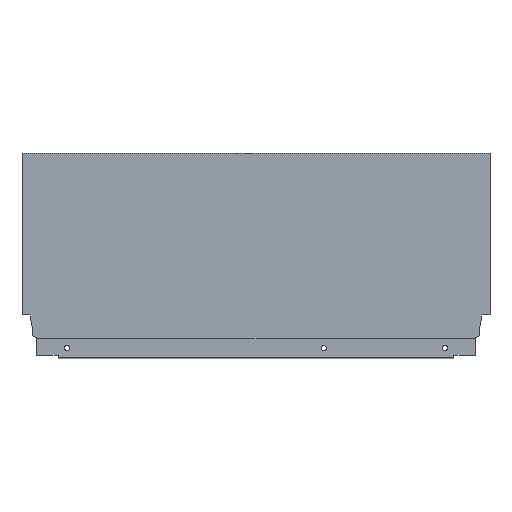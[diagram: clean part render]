
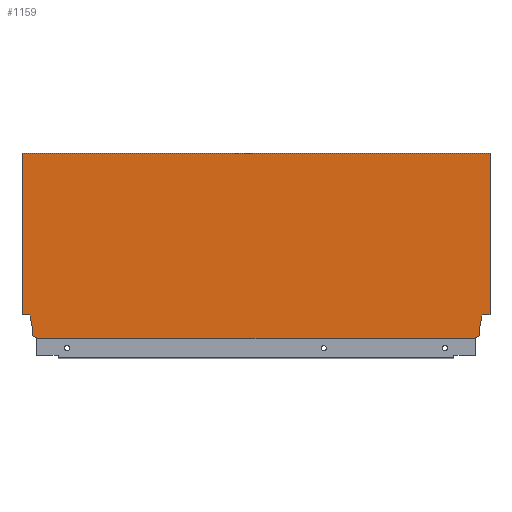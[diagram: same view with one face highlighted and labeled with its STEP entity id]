
A CAD part, top view. The second image highlights one B-rep face of the part: STEP entity #1159.
In plain terms, the highlighted planar face has unit normal (0, 0, 1).
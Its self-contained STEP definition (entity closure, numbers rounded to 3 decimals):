
#111 = EDGE_LOOP ( 'NONE', ( #619, #616, #615, #614, #613, #622, #621, #620, #474, #473, #505, #513, #501, #422 ) ) ;
#298 = VECTOR ( 'NONE', #1320, 1000. ) ;
#299 = LINE ( 'NONE', #1321, #298 ) ;
#300 = VECTOR ( 'NONE', #1323, 1000. ) ;
#302 = LINE ( 'NONE', #1348, #303 ) ;
#303 = VECTOR ( 'NONE', #1347, 1000. ) ;
#304 = LINE ( 'NONE', #1346, #305 ) ;
#305 = VECTOR ( 'NONE', #1345, 1000. ) ;
#306 = LINE ( 'NONE', #1343, #307 ) ;
#307 = VECTOR ( 'NONE', #1342, 1000. ) ;
#308 = LINE ( 'NONE', #1341, #322 ) ;
#312 = LINE ( 'NONE', #1324, #300 ) ;
#313 = VECTOR ( 'NONE', #1326, 1000. ) ;
#314 = LINE ( 'NONE', #1327, #313 ) ;
#315 = VECTOR ( 'NONE', #1328, 1000. ) ;
#316 = LINE ( 'NONE', #1329, #315 ) ;
#317 = VECTOR ( 'NONE', #1331, 1000. ) ;
#318 = LINE ( 'NONE', #1332, #317 ) ;
#320 = VECTOR ( 'NONE', #1334, 1000. ) ;
#321 = VECTOR ( 'NONE', #1336, 1000. ) ;
#322 = VECTOR ( 'NONE', #1340, 1000. ) ;
#323 = LINE ( 'NONE', #1337, #321 ) ;
#326 = VECTOR ( 'NONE', #1352, 1000. ) ;
#327 = LINE ( 'NONE', #1353, #326 ) ;
#328 = LINE ( 'NONE', #1312, #334 ) ;
#330 = VECTOR ( 'NONE', #1357, 1000. ) ;
#331 = LINE ( 'NONE', #1359, #330 ) ;
#334 = VECTOR ( 'NONE', #1311, 1000. ) ;
#336 = LINE ( 'NONE', #1356, #320 ) ;
#422 = ORIENTED_EDGE ( 'NONE', *, *, #706, .F. ) ;
#473 = ORIENTED_EDGE ( 'NONE', *, *, #712, .F. ) ;
#474 = ORIENTED_EDGE ( 'NONE', *, *, #713, .F. ) ;
#501 = ORIENTED_EDGE ( 'NONE', *, *, #711, .F. ) ;
#505 = ORIENTED_EDGE ( 'NONE', *, *, #710, .F. ) ;
#513 = ORIENTED_EDGE ( 'NONE', *, *, #708, .F. ) ;
#613 = ORIENTED_EDGE ( 'NONE', *, *, #716, .F. ) ;
#614 = ORIENTED_EDGE ( 'NONE', *, *, #717, .F. ) ;
#615 = ORIENTED_EDGE ( 'NONE', *, *, #718, .F. ) ;
#616 = ORIENTED_EDGE ( 'NONE', *, *, #719, .F. ) ;
#619 = ORIENTED_EDGE ( 'NONE', *, *, #714, .T. ) ;
#620 = ORIENTED_EDGE ( 'NONE', *, *, #715, .F. ) ;
#621 = ORIENTED_EDGE ( 'NONE', *, *, #720, .T. ) ;
#622 = ORIENTED_EDGE ( 'NONE', *, *, #723, .F. ) ;
#706 = EDGE_CURVE ( 'NONE', #1209, #1255, #331, .T. ) ;
#708 = EDGE_CURVE ( 'NONE', #1263, #1396, #327, .T. ) ;
#710 = EDGE_CURVE ( 'NONE', #1396, #1479, #302, .T. ) ;
#711 = EDGE_CURVE ( 'NONE', #1255, #1263, #304, .T. ) ;
#712 = EDGE_CURVE ( 'NONE', #1479, #1455, #306, .T. ) ;
#713 = EDGE_CURVE ( 'NONE', #1455, #1244, #308, .T. ) ;
#714 = EDGE_CURVE ( 'NONE', #1209, #1339, #323, .T. ) ;
#715 = EDGE_CURVE ( 'NONE', #1244, #1260, #336, .T. ) ;
#716 = EDGE_CURVE ( 'NONE', #1273, #1248, #318, .T. ) ;
#717 = EDGE_CURVE ( 'NONE', #1248, #1222, #316, .T. ) ;
#718 = EDGE_CURVE ( 'NONE', #1222, #1460, #314, .T. ) ;
#719 = EDGE_CURVE ( 'NONE', #1460, #1339, #312, .T. ) ;
#720 = EDGE_CURVE ( 'NONE', #1454, #1260, #299, .T. ) ;
#723 = EDGE_CURVE ( 'NONE', #1454, #1273, #328, .T. ) ;
#796 = AXIS2_PLACEMENT_3D ( 'NONE', #1093, #1135, #1137 ) ;
#964 = CARTESIAN_POINT ( 'NONE',  ( -8.9, 10.765, 7.5 ) ) ;
#971 = CARTESIAN_POINT ( 'NONE',  ( -407.94, 21.2, 7.5 ) ) ;
#973 = CARTESIAN_POINT ( 'NONE',  ( -8.9, 2.64, 7.5 ) ) ;
#974 = CARTESIAN_POINT ( 'NONE',  ( -401.996, 0., 7.5 ) ) ;
#992 = CARTESIAN_POINT ( 'NONE',  ( -7.06, 21.2, 7.5 ) ) ;
#1008 = CARTESIAN_POINT ( 'NONE',  ( -415., 21.2, 7.5 ) ) ;
#1034 = CARTESIAN_POINT ( 'NONE',  ( -401.996, 1.146, 7.5 ) ) ;
#1039 = CARTESIAN_POINT ( 'NONE',  ( 0., 21.2, 7.5 ) ) ;
#1041 = CARTESIAN_POINT ( 'NONE',  ( -13.004, 0., 7.5 ) ) ;
#1043 = CARTESIAN_POINT ( 'NONE',  ( 0., 164.7, 7.5 ) ) ;
#1045 = CARTESIAN_POINT ( 'NONE',  ( -406.1, 2.64, 7.5 ) ) ;
#1046 = CARTESIAN_POINT ( 'NONE',  ( -13.004, 1.146, 7.5 ) ) ;
#1056 = CARTESIAN_POINT ( 'NONE',  ( -406.1, 10.765, 7.5 ) ) ;
#1060 = CARTESIAN_POINT ( 'NONE',  ( -415., 164.7, 7.5 ) ) ;
#1093 = CARTESIAN_POINT ( 'NONE',  ( -415., 0., 7.5 ) ) ;
#1135 = DIRECTION ( 'NONE',  ( 0., 0., 1. ) ) ;
#1137 = DIRECTION ( 'NONE',  ( 1., 0., 0. ) ) ;
#1138 = PLANE ( 'NONE',  #796 ) ;
#1159 = ADVANCED_FACE ( 'NONE', ( #1543 ), #1138, .T. ) ;
#1209 = VERTEX_POINT ( 'NONE', #1060 ) ;
#1222 = VERTEX_POINT ( 'NONE', #1056 ) ;
#1244 = VERTEX_POINT ( 'NONE', #1046 ) ;
#1248 = VERTEX_POINT ( 'NONE', #1045 ) ;
#1255 = VERTEX_POINT ( 'NONE', #1043 ) ;
#1260 = VERTEX_POINT ( 'NONE', #1041 ) ;
#1263 = VERTEX_POINT ( 'NONE', #1039 ) ;
#1273 = VERTEX_POINT ( 'NONE', #1034 ) ;
#1311 = DIRECTION ( 'NONE',  ( 0., 1., 0. ) ) ;
#1312 = CARTESIAN_POINT ( 'NONE',  ( -401.996, 1.146, 7.5 ) ) ;
#1320 = DIRECTION ( 'NONE',  ( 1., 0., 0. ) ) ;
#1321 = CARTESIAN_POINT ( 'NONE',  ( -415., 0., 7.5 ) ) ;
#1323 = DIRECTION ( 'NONE',  ( -1., 0., 0. ) ) ;
#1324 = CARTESIAN_POINT ( 'NONE',  ( -420., 21.2, 7.5 ) ) ;
#1326 = DIRECTION ( 'NONE',  ( -0.174, 0.985, 0. ) ) ;
#1327 = CARTESIAN_POINT ( 'NONE',  ( -407.94, 21.2, 7.5 ) ) ;
#1328 = DIRECTION ( 'NONE',  ( 0., 1., 0. ) ) ;
#1329 = CARTESIAN_POINT ( 'NONE',  ( -406.1, 10.765, 7.5 ) ) ;
#1331 = DIRECTION ( 'NONE',  ( -0.94, 0.342, 0. ) ) ;
#1332 = CARTESIAN_POINT ( 'NONE',  ( -406.1, 2.64, 7.5 ) ) ;
#1334 = DIRECTION ( 'NONE',  ( 0., -1., 0. ) ) ;
#1336 = DIRECTION ( 'NONE',  ( 0., -1., 0. ) ) ;
#1337 = CARTESIAN_POINT ( 'NONE',  ( -415., 0., 7.5 ) ) ;
#1339 = VERTEX_POINT ( 'NONE', #1008 ) ;
#1340 = DIRECTION ( 'NONE',  ( -0.94, -0.342, 0. ) ) ;
#1341 = CARTESIAN_POINT ( 'NONE',  ( -8.9, 2.64, 7.5 ) ) ;
#1342 = DIRECTION ( 'NONE',  ( 0., -1., 0. ) ) ;
#1343 = CARTESIAN_POINT ( 'NONE',  ( -8.9, 10.765, 7.5 ) ) ;
#1345 = DIRECTION ( 'NONE',  ( 0., -1., 0. ) ) ;
#1346 = CARTESIAN_POINT ( 'NONE',  ( 0., 0., 7.5 ) ) ;
#1347 = DIRECTION ( 'NONE',  ( -0.174, -0.985, 0. ) ) ;
#1348 = CARTESIAN_POINT ( 'NONE',  ( -7.06, 21.2, 7.5 ) ) ;
#1352 = DIRECTION ( 'NONE',  ( -1., 0., 0. ) ) ;
#1353 = CARTESIAN_POINT ( 'NONE',  ( 0., 21.2, 7.5 ) ) ;
#1356 = CARTESIAN_POINT ( 'NONE',  ( -13.004, 1.146, 7.5 ) ) ;
#1357 = DIRECTION ( 'NONE',  ( 1., 0., 0. ) ) ;
#1359 = CARTESIAN_POINT ( 'NONE',  ( -415., 164.7, 7.5 ) ) ;
#1396 = VERTEX_POINT ( 'NONE', #992 ) ;
#1454 = VERTEX_POINT ( 'NONE', #974 ) ;
#1455 = VERTEX_POINT ( 'NONE', #973 ) ;
#1460 = VERTEX_POINT ( 'NONE', #971 ) ;
#1479 = VERTEX_POINT ( 'NONE', #964 ) ;
#1543 = FACE_OUTER_BOUND ( 'NONE', #111, .T. ) ;
